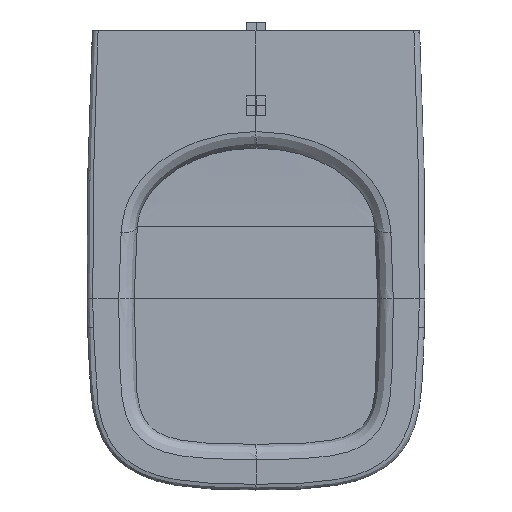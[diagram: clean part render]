
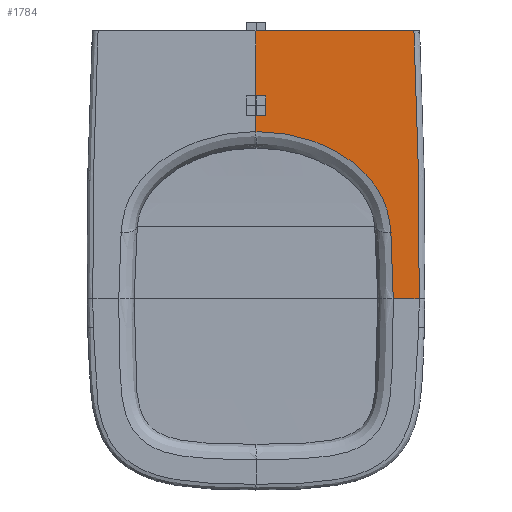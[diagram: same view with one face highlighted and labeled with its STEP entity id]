
A CAD part, top view. The second image highlights one B-rep face of the part: STEP entity #1784.
In plain terms, the highlighted free-form (B-spline) face has degree [3, 3] with [6, 4] control points.
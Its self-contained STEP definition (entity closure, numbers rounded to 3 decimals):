
#30=DIRECTION('',(-1.,0.,0.));
#31=VECTOR('',#30,165.028);
#32=CARTESIAN_POINT('',(165.028,0.,400.));
#33=LINE('',#32,#31);
#58=DIRECTION('',(0.,1.,0.));
#59=VECTOR('',#58,105.135);
#60=CARTESIAN_POINT('',(0.,-105.135,400.));
#61=LINE('',#60,#59);
#62=CARTESIAN_POINT('',(170.503,-279.94,400.));
#63=CARTESIAN_POINT('',(170.63,-267.431,400.));
#64=CARTESIAN_POINT('',(170.76,-243.633,400.));
#65=CARTESIAN_POINT('',(170.67,-212.828,400.));
#66=CARTESIAN_POINT('',(170.389,-183.304,400.));
#67=CARTESIAN_POINT('',(169.89,-151.811,400.));
#68=CARTESIAN_POINT('',(169.1,-116.735,400.));
#69=CARTESIAN_POINT('',(168.012,-79.153,400.));
#70=CARTESIAN_POINT('',(166.612,-39.066,400.));
#71=CARTESIAN_POINT('',(165.573,-13.039,400.));
#72=CARTESIAN_POINT('',(165.028,0.,400.));
#74=DIRECTION('',(1.,-0.008,0.));
#75=VECTOR('',#74,27.09);
#76=CARTESIAN_POINT('',(143.414,-279.713,400.));
#77=LINE('',#76,#75);
#78=CARTESIAN_POINT('',(140.941,-210.536,400.));
#79=CARTESIAN_POINT('',(141.252,-213.75,400.));
#80=CARTESIAN_POINT('',(141.804,-220.016,400.));
#81=CARTESIAN_POINT('',(142.428,-229.046,400.));
#82=CARTESIAN_POINT('',(142.821,-237.35,400.));
#83=CARTESIAN_POINT('',(143.046,-246.281,400.));
#84=CARTESIAN_POINT('',(143.194,-256.235,400.));
#85=CARTESIAN_POINT('',(143.331,-267.294,400.));
#86=CARTESIAN_POINT('',(143.391,-275.447,400.));
#87=CARTESIAN_POINT('',(143.414,-279.713,400.));
#89=CARTESIAN_POINT('',(141.079,-210.513,400.));
#90=CARTESIAN_POINT('',(141.057,-210.511,400.));
#91=CARTESIAN_POINT('',(141.01,-210.51,400.));
#92=CARTESIAN_POINT('',(140.964,-210.525,400.));
#93=CARTESIAN_POINT('',(140.941,-210.536,400.));
#95=CARTESIAN_POINT('',(0.,-105.135,400.));
#96=CARTESIAN_POINT('',(1.768,-105.135,400.));
#97=CARTESIAN_POINT('',(5.283,-105.182,400.));
#98=CARTESIAN_POINT('',(10.494,-105.393,400.));
#99=CARTESIAN_POINT('',(15.633,-105.739,400.));
#100=CARTESIAN_POINT('',(20.69,-106.218,400.));
#101=CARTESIAN_POINT('',(25.656,-106.824,400.));
#102=CARTESIAN_POINT('',(30.528,-107.554,400.));
#103=CARTESIAN_POINT('',(35.309,-108.405,400.));
#104=CARTESIAN_POINT('',(40.003,-109.373,400.));
#105=CARTESIAN_POINT('',(44.61,-110.457,400.));
#106=CARTESIAN_POINT('',(49.13,-111.652,400.));
#107=CARTESIAN_POINT('',(53.562,-112.957,400.));
#108=CARTESIAN_POINT('',(57.905,-114.367,400.));
#109=CARTESIAN_POINT('',(62.155,-115.881,400.));
#110=CARTESIAN_POINT('',(66.313,-117.494,400.));
#111=CARTESIAN_POINT('',(70.375,-119.204,400.));
#112=CARTESIAN_POINT('',(74.34,-121.007,400.));
#113=CARTESIAN_POINT('',(78.209,-122.902,400.));
#114=CARTESIAN_POINT('',(81.98,-124.885,400.));
#115=CARTESIAN_POINT('',(85.651,-126.953,400.));
#116=CARTESIAN_POINT('',(89.215,-129.1,400.));
#117=CARTESIAN_POINT('',(92.664,-131.318,400.));
#118=CARTESIAN_POINT('',(95.995,-133.602,400.));
#119=CARTESIAN_POINT('',(99.211,-135.95,400.));
#120=CARTESIAN_POINT('',(102.315,-138.361,400.));
#121=CARTESIAN_POINT('',(105.311,-140.835,400.));
#122=CARTESIAN_POINT('',(108.203,-143.372,400.));
#123=CARTESIAN_POINT('',(110.989,-145.968,400.));
#124=CARTESIAN_POINT('',(113.654,-148.607,400.));
#125=CARTESIAN_POINT('',(116.169,-151.253,400.));
#126=CARTESIAN_POINT('',(118.517,-153.882,400.));
#127=CARTESIAN_POINT('',(120.701,-156.486,400.));
#128=CARTESIAN_POINT('',(122.733,-159.07,400.));
#129=CARTESIAN_POINT('',(124.62,-161.632,400.));
#130=CARTESIAN_POINT('',(126.363,-164.166,400.));
#131=CARTESIAN_POINT('',(127.965,-166.665,400.));
#132=CARTESIAN_POINT('',(129.436,-169.134,400.));
#133=CARTESIAN_POINT('',(130.79,-171.59,400.));
#134=CARTESIAN_POINT('',(132.033,-174.032,400.));
#135=CARTESIAN_POINT('',(133.163,-176.455,400.));
#136=CARTESIAN_POINT('',(134.186,-178.855,400.));
#137=CARTESIAN_POINT('',(135.113,-181.253,400.));
#138=CARTESIAN_POINT('',(135.966,-183.706,400.));
#139=CARTESIAN_POINT('',(136.764,-186.281,400.));
#140=CARTESIAN_POINT('',(137.511,-189.006,400.));
#141=CARTESIAN_POINT('',(138.198,-191.871,400.));
#142=CARTESIAN_POINT('',(138.835,-194.913,400.));
#143=CARTESIAN_POINT('',(139.423,-198.15,400.));
#144=CARTESIAN_POINT('',(139.975,-201.625,400.));
#145=CARTESIAN_POINT('',(140.45,-204.999,400.));
#146=CARTESIAN_POINT('',(140.816,-207.943,400.));
#147=CARTESIAN_POINT('',(141.002,-209.697,400.));
#148=CARTESIAN_POINT('',(141.079,-210.513,400.));
#677=CARTESIAN_POINT('',(170.503,-279.94,400.));
#1599=VERTEX_POINT('',#677);
#1602=VERTEX_POINT('',#72);
#1604=CARTESIAN_POINT('',(143.414,-279.713,400.));
#1605=VERTEX_POINT('',#1604);
#1615=VERTEX_POINT('',#89);
#1616=VERTEX_POINT('',#93);
#1642=CARTESIAN_POINT('',(0.,-105.135,
400.));
#1643=CARTESIAN_POINT('',(0.,0.,400.));
#1644=VERTEX_POINT('',#1642);
#1645=VERTEX_POINT('',#1643);
#1744=CARTESIAN_POINT('',(-1.649,2.803,400.));
#1745=CARTESIAN_POINT('',(54.428,2.633,400.));
#1746=CARTESIAN_POINT('',(110.506,2.464,400.));
#1747=CARTESIAN_POINT('',(166.583,2.294,400.));
#1748=CARTESIAN_POINT('',(-1.671,-59.682,400.));
#1749=CARTESIAN_POINT('',(55.136,-56.044,400.));
#1750=CARTESIAN_POINT('',(111.942,-52.405,400.));
#1751=CARTESIAN_POINT('',(168.746,-48.767,400.));
#1752=CARTESIAN_POINT('',(-1.697,-141.564,400.));
#1753=CARTESIAN_POINT('',(56.016,-135.937,400.));
#1754=CARTESIAN_POINT('',(113.726,-130.309,400.));
#1755=CARTESIAN_POINT('',(171.433,-124.681,400.));
#1756=CARTESIAN_POINT('',(-1.71,-230.349,400.));
#1757=CARTESIAN_POINT('',(56.446,-226.733,400.));
#1758=CARTESIAN_POINT('',(114.596,-223.118,400.));
#1759=CARTESIAN_POINT('',(172.741,-219.502,400.));
#1760=CARTESIAN_POINT('',(-1.709,-268.908,400.));
#1761=CARTESIAN_POINT('',(56.418,-267.127,400.));
#1762=CARTESIAN_POINT('',(114.538,-265.345,400.));
#1763=CARTESIAN_POINT('',(172.652,-263.564,400.));
#1764=CARTESIAN_POINT('',(-1.708,-285.282,400.));
#1765=CARTESIAN_POINT('',(56.364,-284.419,400.));
#1766=CARTESIAN_POINT('',(114.429,-283.556,400.));
#1767=CARTESIAN_POINT('',(172.487,-282.694,400.));
#1768=B_SPLINE_SURFACE_WITH_KNOTS('',3,3,((#1744,#1745,#1746,#1747),(#1748,
#1749,#1750,#1751),(#1752,#1753,#1754,#1755),(#1756,#1757,#1758,#1759),(#1760,
#1761,#1762,#1763),(#1764,#1765,#1766,#1767)),.UNSPECIFIED.,.F.,.F.,.F.,(4,1,1,
4),(4,4),(-0.008,0.5,0.75,0.942),
(-0.01,0.971),.UNSPECIFIED.);
#1770=ORIENTED_EDGE('',*,*,#1769,.T.);
#1771=ORIENTED_EDGE('',*,*,#1711,.F.);
#1773=ORIENTED_EDGE('',*,*,#1772,.F.);
#1775=ORIENTED_EDGE('',*,*,#1774,.F.);
#1777=ORIENTED_EDGE('',*,*,#1776,.F.);
#1779=ORIENTED_EDGE('',*,*,#1778,.F.);
#1781=ORIENTED_EDGE('',*,*,#1780,.F.);
#1782=EDGE_LOOP('',(#1770,#1771,#1773,#1775,#1777,#1779,#1781));
#1783=FACE_OUTER_BOUND('',#1782,.F.);
#73=B_SPLINE_CURVE_WITH_KNOTS('',3,(#62,#63,#64,#65,#66,#67,#68,#69,#70,#71,
#72),.UNSPECIFIED.,.F.,.F.,(4,1,1,1,1,1,1,1,4),(0.,0.125,0.25,0.375,
0.5,0.625,0.75,0.875,1.),.UNSPECIFIED.);
#88=B_SPLINE_CURVE_WITH_KNOTS('',3,(#78,#79,#80,#81,#82,#83,#84,#85,#86,#87),
.UNSPECIFIED.,.F.,.F.,(4,1,1,1,1,1,1,4),(0.,0.143,
0.286,0.429,0.571,0.714,
0.857,1.),.UNSPECIFIED.);
#94=B_SPLINE_CURVE_WITH_KNOTS('',3,(#89,#90,#91,#92,#93),.UNSPECIFIED.,.F.,.F.,(
4,1,4),(0.,0.5,1.),.UNSPECIFIED.);
#149=B_SPLINE_CURVE_WITH_KNOTS('',3,(#95,#96,#97,#98,#99,#100,#101,#102,#103,
#104,#105,#106,#107,#108,#109,#110,#111,#112,#113,#114,#115,#116,#117,#118,#119,
#120,#121,#122,#123,#124,#125,#126,#127,#128,#129,#130,#131,#132,#133,#134,#135,
#136,#137,#138,#139,#140,#141,#142,#143,#144,#145,#146,#147,#148),.UNSPECIFIED.,
.F.,.F.,(4,1,1,1,1,1,1,1,1,1,1,1,1,1,1,1,1,1,1,1,1,1,1,1,1,1,1,1,1,1,1,1,1,1,1,
1,1,1,1,1,1,1,1,1,1,1,1,1,1,1,1,4),(0.,0.02,0.039,
0.059,0.078,0.098,0.118,
0.137,0.157,0.176,0.196,
0.216,0.235,0.255,0.275,
0.294,0.314,0.333,0.353,
0.373,0.392,0.412,0.431,
0.451,0.471,0.49,0.51,
0.529,0.549,0.569,0.588,
0.608,0.627,0.647,0.667,
0.686,0.706,0.725,0.745,
0.765,0.784,0.804,0.824,
0.843,0.863,0.882,0.902,
0.922,0.941,0.961,0.98,1.),
.UNSPECIFIED.);
#1711=EDGE_CURVE('',#1602,#1645,#33,.T.);
#1769=EDGE_CURVE('',#1644,#1645,#61,.T.);
#1772=EDGE_CURVE('',#1599,#1602,#73,.T.);
#1774=EDGE_CURVE('',#1605,#1599,#77,.T.);
#1776=EDGE_CURVE('',#1616,#1605,#88,.T.);
#1778=EDGE_CURVE('',#1615,#1616,#94,.T.);
#1780=EDGE_CURVE('',#1644,#1615,#149,.T.);
#1784=ADVANCED_FACE('',(#1783),#1768,.T.);
